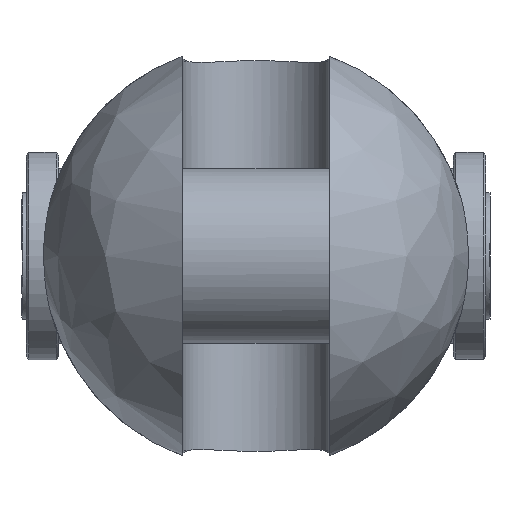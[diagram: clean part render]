
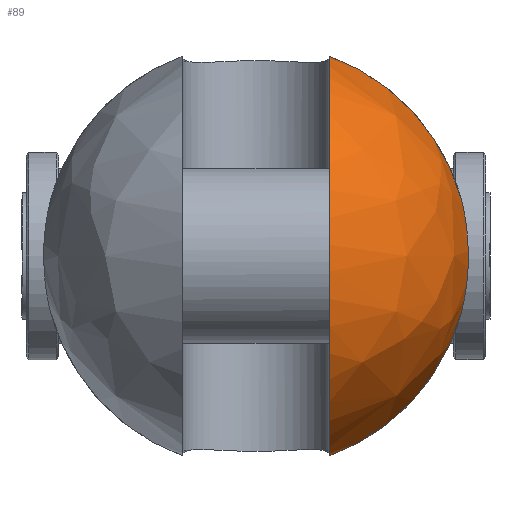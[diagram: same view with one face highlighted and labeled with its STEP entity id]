
A CAD part, left-side view. The second image highlights one B-rep face of the part: STEP entity #89.
In plain terms, the highlighted free-form (B-spline) face has degree [2, 2] with [9, 5] control points.
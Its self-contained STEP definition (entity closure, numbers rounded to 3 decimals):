
#89=ADVANCED_FACE('',(#164),#1306,.T.);
#164=FACE_OUTER_BOUND('',#249,.T.);
#249=EDGE_LOOP('',(#583,#584,#585,#586));
#583=ORIENTED_EDGE('',*,*,#807,.T.);
#584=ORIENTED_EDGE('',*,*,#835,.F.);
#585=ORIENTED_EDGE('',*,*,#847,.T.);
#586=ORIENTED_EDGE('',*,*,#827,.F.);
#807=EDGE_CURVE('',#1192,#1191,#1045,.T.);
#827=EDGE_CURVE('',#1192,#1204,#1055,.T.);
#835=EDGE_CURVE('',#1211,#1191,#1056,.T.);
#847=EDGE_CURVE('',#1211,#1204,#963,.T.);
#963=B_SPLINE_CURVE_WITH_KNOTS('',3,(#3120,#3121,#3122,#3123,#3124,#3125,
#3126,#3127,#3128,#3129,#3130,#3131,#3132,#3133),.UNSPECIFIED.,.F.,.F.,
(4,2,2,2,2,2,4),(0.,1.605,6.417,11.229,
16.04,20.852,22.457),.UNSPECIFIED.);
#1045=(
BOUNDED_CURVE()
B_SPLINE_CURVE(2,(#2896,#2897,#2898,#2899,#2900),.UNSPECIFIED.,.F.,.F.)
B_SPLINE_CURVE_WITH_KNOTS((3,2,3),(-114.948,-57.474,
0.),.UNSPECIFIED.)
CURVE()
GEOMETRIC_REPRESENTATION_ITEM()
RATIONAL_B_SPLINE_CURVE((1.,0.707,1.,0.707,1.))
REPRESENTATION_ITEM('')
);
#1055=(
BOUNDED_CURVE()
B_SPLINE_CURVE(2,(#2990,#2991,#2992),.UNSPECIFIED.,.F.,.F.)
B_SPLINE_CURVE_WITH_KNOTS((3,3),(0.,36.808),.UNSPECIFIED.)
CURVE()
GEOMETRIC_REPRESENTATION_ITEM()
RATIONAL_B_SPLINE_CURVE((1.,0.891,1.))
REPRESENTATION_ITEM('')
);
#1056=(
BOUNDED_CURVE()
B_SPLINE_CURVE(2,(#3047,#3048,#3049),.UNSPECIFIED.,.F.,.F.)
B_SPLINE_CURVE_WITH_KNOTS((3,3),(0.,36.808),.UNSPECIFIED.)
CURVE()
GEOMETRIC_REPRESENTATION_ITEM()
RATIONAL_B_SPLINE_CURVE((1.,0.891,1.))
REPRESENTATION_ITEM('')
);
#1191=VERTEX_POINT('',#2837);
#1192=VERTEX_POINT('',#2838);
#1204=VERTEX_POINT('',#2850);
#1211=VERTEX_POINT('',#2857);
#1306=(
BOUNDED_SURFACE()
B_SPLINE_SURFACE(2,2,((#2445,#2446,#2447,#2448,#2449),(#2450,#2451,#2452,
#2453,#2454),(#2455,#2456,#2457,#2458,#2459),(#2460,#2461,#2462,#2463,#2464),
(#2465,#2466,#2467,#2468,#2469),(#2470,#2471,#2472,#2473,#2474),(#2475,
#2476,#2477,#2478,#2479),(#2480,#2481,#2482,#2483,#2484),(#2485,#2486,#2487,
#2488,#2489)),.UNSPECIFIED.,.T.,.F.,.F.)
B_SPLINE_SURFACE_WITH_KNOTS((3,2,2,2,3),(3,2,3),(0.,61.261,122.522,
183.783,245.044),(0.,61.261,122.522),
 .UNSPECIFIED.)
GEOMETRIC_REPRESENTATION_ITEM()
RATIONAL_B_SPLINE_SURFACE(((1.,0.707,1.,0.707,1.),
(0.707,0.5,0.707,0.5,0.707),(1.,0.707,
1.,0.707,1.),(0.707,0.5,0.707,0.5,0.707),
(1.,0.707,1.,0.707,1.),(0.707,0.5,0.707,
0.5,0.707),(1.,0.707,1.,0.707,1.),(0.707,
0.5,0.707,0.5,0.707),(1.,0.707,1.,0.707,
1.)))
REPRESENTATION_ITEM('')
SURFACE()
);
#2445=CARTESIAN_POINT('',(-56.,0.,0.));
#2446=CARTESIAN_POINT('',(-56.,39.,0.));
#2447=CARTESIAN_POINT('',(-17.,39.,0.));
#2448=CARTESIAN_POINT('',(22.,39.,0.));
#2449=CARTESIAN_POINT('',(22.,0.,0.));
#2450=CARTESIAN_POINT('',(-56.,0.,0.));
#2451=CARTESIAN_POINT('',(-56.,39.,39.));
#2452=CARTESIAN_POINT('',(-17.,39.,39.));
#2453=CARTESIAN_POINT('',(22.,39.,39.));
#2454=CARTESIAN_POINT('',(22.,0.,0.));
#2455=CARTESIAN_POINT('',(-56.,0.,0.));
#2456=CARTESIAN_POINT('',(-56.,0.,39.));
#2457=CARTESIAN_POINT('',(-17.,0.,39.));
#2458=CARTESIAN_POINT('',(22.,0.,39.));
#2459=CARTESIAN_POINT('',(22.,0.,0.));
#2460=CARTESIAN_POINT('',(-56.,0.,0.));
#2461=CARTESIAN_POINT('',(-56.,-39.,39.));
#2462=CARTESIAN_POINT('',(-17.,-39.,39.));
#2463=CARTESIAN_POINT('',(22.,-39.,39.));
#2464=CARTESIAN_POINT('',(22.,0.,0.));
#2465=CARTESIAN_POINT('',(-56.,0.,0.));
#2466=CARTESIAN_POINT('',(-56.,-39.,0.));
#2467=CARTESIAN_POINT('',(-17.,-39.,0.));
#2468=CARTESIAN_POINT('',(22.,-39.,0.));
#2469=CARTESIAN_POINT('',(22.,0.,0.));
#2470=CARTESIAN_POINT('',(-56.,0.,0.));
#2471=CARTESIAN_POINT('',(-56.,-39.,-39.));
#2472=CARTESIAN_POINT('',(-17.,-39.,-39.));
#2473=CARTESIAN_POINT('',(22.,-39.,-39.));
#2474=CARTESIAN_POINT('',(22.,0.,0.));
#2475=CARTESIAN_POINT('',(-56.,0.,0.));
#2476=CARTESIAN_POINT('',(-56.,0.,-39.));
#2477=CARTESIAN_POINT('',(-17.,0.,-39.));
#2478=CARTESIAN_POINT('',(22.,0.,-39.));
#2479=CARTESIAN_POINT('',(22.,0.,0.));
#2480=CARTESIAN_POINT('',(-56.,0.,0.));
#2481=CARTESIAN_POINT('',(-56.,39.,-39.));
#2482=CARTESIAN_POINT('',(-17.,39.,-39.));
#2483=CARTESIAN_POINT('',(22.,39.,-39.));
#2484=CARTESIAN_POINT('',(22.,0.,0.));
#2485=CARTESIAN_POINT('',(-56.,0.,0.));
#2486=CARTESIAN_POINT('',(-56.,39.,0.));
#2487=CARTESIAN_POINT('',(-17.,39.,0.));
#2488=CARTESIAN_POINT('',(22.,39.,0.));
#2489=CARTESIAN_POINT('',(22.,0.,0.));
#2837=CARTESIAN_POINT('',(-17.,-13.5,-36.589));
#2838=CARTESIAN_POINT('',(-17.,-13.5,36.589));
#2850=CARTESIAN_POINT('',(-17.,-37.55,10.536));
#2857=CARTESIAN_POINT('',(-17.,-37.55,-10.536));
#2896=CARTESIAN_POINT('',(-17.,-13.5,36.589));
#2897=CARTESIAN_POINT('',(-53.589,-13.5,36.589));
#2898=CARTESIAN_POINT('',(-53.589,-13.5,0.));
#2899=CARTESIAN_POINT('',(-53.589,-13.5,-36.589));
#2900=CARTESIAN_POINT('',(-17.,-13.5,-36.589));
#2990=CARTESIAN_POINT('',(-17.,-13.5,36.589));
#2991=CARTESIAN_POINT('',(-17.,-32.173,29.699));
#2992=CARTESIAN_POINT('',(-17.,-37.55,10.536));
#3047=CARTESIAN_POINT('',(-17.,-37.55,-10.536));
#3048=CARTESIAN_POINT('',(-17.,-32.173,-29.699));
#3049=CARTESIAN_POINT('',(-17.,-13.5,-36.589));
#3120=CARTESIAN_POINT('',(-17.,-37.55,-10.536));
#3121=CARTESIAN_POINT('',(-17.277,-37.675,-10.089));
#3122=CARTESIAN_POINT('',(-17.537,-37.793,-9.629));
#3123=CARTESIAN_POINT('',(-18.506,-38.227,-7.749));
#3124=CARTESIAN_POINT('',(-19.068,-38.475,-6.24));
#3125=CARTESIAN_POINT('',(-19.816,-38.804,-3.143));
#3126=CARTESIAN_POINT('',(-20.,-38.884,-1.556));
#3127=CARTESIAN_POINT('',(-20.,-38.884,1.556));
#3128=CARTESIAN_POINT('',(-19.816,-38.804,3.143));
#3129=CARTESIAN_POINT('',(-19.068,-38.475,6.24));
#3130=CARTESIAN_POINT('',(-18.506,-38.227,7.749));
#3131=CARTESIAN_POINT('',(-17.537,-37.793,9.629));
#3132=CARTESIAN_POINT('',(-17.277,-37.675,10.089));
#3133=CARTESIAN_POINT('',(-17.,-37.55,10.536));
